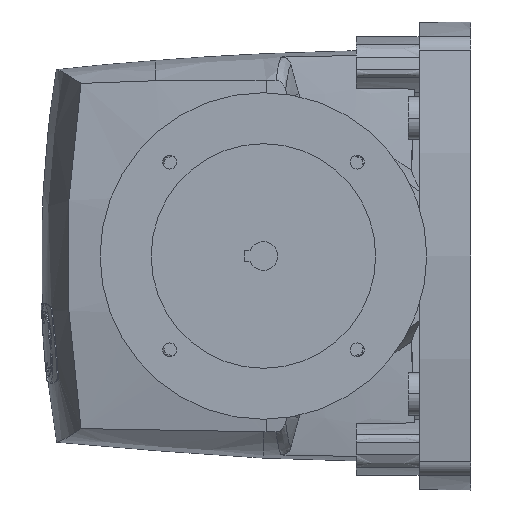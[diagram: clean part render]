
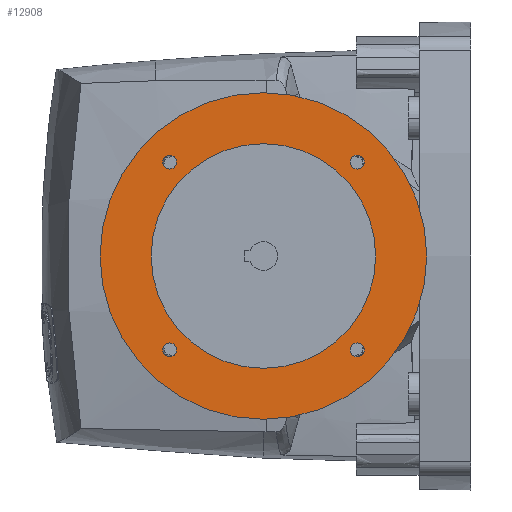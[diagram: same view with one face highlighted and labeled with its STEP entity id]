
A CAD part, left-side view. The second image highlights one B-rep face of the part: STEP entity #12908.
In plain terms, the highlighted planar face has unit normal (-1, 0, 0).
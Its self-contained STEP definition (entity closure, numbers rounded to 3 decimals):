
#4046=CARTESIAN_POINT('',(-137.5,147.462,45.962));
#4047=DIRECTION('',(1.,0.,0.));
#4048=DIRECTION('',(0.,-1.,0.));
#4049=AXIS2_PLACEMENT_3D('',#4046,#4047,#4048);
#4051=CARTESIAN_POINT('',(-137.5,147.462,45.962));
#4052=DIRECTION('',(1.,0.,0.));
#4053=DIRECTION('',(0.,1.,0.));
#4054=AXIS2_PLACEMENT_3D('',#4051,#4052,#4053);
#4056=CARTESIAN_POINT('',(-137.5,55.538,45.962));
#4057=DIRECTION('',(1.,0.,0.));
#4058=DIRECTION('',(0.,-1.,0.));
#4059=AXIS2_PLACEMENT_3D('',#4056,#4057,#4058);
#4061=CARTESIAN_POINT('',(-137.5,55.538,45.962));
#4062=DIRECTION('',(1.,0.,0.));
#4063=DIRECTION('',(0.,1.,0.));
#4064=AXIS2_PLACEMENT_3D('',#4061,#4062,#4063);
#4066=CARTESIAN_POINT('',(-137.5,147.462,-45.962));
#4067=DIRECTION('',(1.,0.,0.));
#4068=DIRECTION('',(0.,-1.,0.));
#4069=AXIS2_PLACEMENT_3D('',#4066,#4067,#4068);
#4071=CARTESIAN_POINT('',(-137.5,147.462,-45.962));
#4072=DIRECTION('',(1.,0.,0.));
#4073=DIRECTION('',(0.,1.,0.));
#4074=AXIS2_PLACEMENT_3D('',#4071,#4072,#4073);
#4076=CARTESIAN_POINT('',(-137.5,55.538,-45.962));
#4077=DIRECTION('',(1.,0.,0.));
#4078=DIRECTION('',(0.,-1.,0.));
#4079=AXIS2_PLACEMENT_3D('',#4076,#4077,#4078);
#4081=CARTESIAN_POINT('',(-137.5,55.538,-45.962));
#4082=DIRECTION('',(1.,0.,0.));
#4083=DIRECTION('',(0.,1.,0.));
#4084=AXIS2_PLACEMENT_3D('',#4081,#4082,#4083);
#4086=CARTESIAN_POINT('',(-137.5,101.5,0.));
#4087=DIRECTION('',(1.,0.,0.));
#4088=DIRECTION('',(0.,0.,-1.));
#4089=AXIS2_PLACEMENT_3D('',#4086,#4087,#4088);
#4091=CARTESIAN_POINT('',(-137.5,101.5,0.));
#4092=DIRECTION('',(1.,0.,0.));
#4093=DIRECTION('',(0.,0.,1.));
#4094=AXIS2_PLACEMENT_3D('',#4091,#4092,#4093);
#4096=CARTESIAN_POINT('',(-137.5,101.5,0.));
#4097=DIRECTION('',(-1.,0.,0.));
#4098=DIRECTION('',(0.,0.,1.));
#4099=AXIS2_PLACEMENT_3D('',#4096,#4097,#4098);
#4101=CARTESIAN_POINT('',(-137.5,101.5,0.));
#4102=DIRECTION('',(-1.,0.,0.));
#4103=DIRECTION('',(0.,0.,-1.));
#4104=AXIS2_PLACEMENT_3D('',#4101,#4102,#4103);
#7137=CARTESIAN_POINT('',(-137.5,101.5,-79.989));
#7138=CARTESIAN_POINT('',(-137.5,101.5,79.989));
#7139=VERTEX_POINT('',#7137);
#7140=VERTEX_POINT('',#7138);
#7141=CARTESIAN_POINT('',(-137.5,101.5,54.99));
#7142=CARTESIAN_POINT('',(-137.5,101.5,-54.99));
#7143=VERTEX_POINT('',#7141);
#7144=VERTEX_POINT('',#7142);
#7375=CARTESIAN_POINT('',(-137.5,144.062,45.962));
#7376=CARTESIAN_POINT('',(-137.5,150.862,45.962));
#7377=VERTEX_POINT('',#7375);
#7378=VERTEX_POINT('',#7376);
#7379=CARTESIAN_POINT('',(-137.5,52.138,45.962));
#7380=CARTESIAN_POINT('',(-137.5,58.938,45.962));
#7381=VERTEX_POINT('',#7379);
#7382=VERTEX_POINT('',#7380);
#7383=CARTESIAN_POINT('',(-137.5,52.138,-45.962));
#7384=CARTESIAN_POINT('',(-137.5,58.938,-45.962));
#7385=VERTEX_POINT('',#7383);
#7386=VERTEX_POINT('',#7384);
#7387=CARTESIAN_POINT('',(-137.5,144.062,-45.962));
#7388=CARTESIAN_POINT('',(-137.5,150.862,-45.962));
#7389=VERTEX_POINT('',#7387);
#7390=VERTEX_POINT('',#7388);
#12868=CARTESIAN_POINT('',(-137.5,101.5,0.));
#12869=DIRECTION('',(1.,0.,0.));
#12870=DIRECTION('',(0.,0.,1.));
#12871=AXIS2_PLACEMENT_3D('',#12868,#12869,#12870);
#12872=PLANE('',#12871);
#12873=ORIENTED_EDGE('',*,*,#12858,.T.);
#12875=ORIENTED_EDGE('',*,*,#12874,.T.);
#12876=EDGE_LOOP('',(#12873,#12875));
#12877=FACE_OUTER_BOUND('',#12876,.F.);
#12879=ORIENTED_EDGE('',*,*,#12878,.F.);
#12881=ORIENTED_EDGE('',*,*,#12880,.F.);
#12882=EDGE_LOOP('',(#12879,#12881));
#12883=FACE_BOUND('',#12882,.F.);
#12885=ORIENTED_EDGE('',*,*,#12884,.F.);
#12887=ORIENTED_EDGE('',*,*,#12886,.F.);
#12888=EDGE_LOOP('',(#12885,#12887));
#12889=FACE_BOUND('',#12888,.F.);
#12891=ORIENTED_EDGE('',*,*,#12890,.F.);
#12893=ORIENTED_EDGE('',*,*,#12892,.F.);
#12894=EDGE_LOOP('',(#12891,#12893));
#12895=FACE_BOUND('',#12894,.F.);
#12897=ORIENTED_EDGE('',*,*,#12896,.F.);
#12899=ORIENTED_EDGE('',*,*,#12898,.F.);
#12900=EDGE_LOOP('',(#12897,#12899));
#12901=FACE_BOUND('',#12900,.F.);
#12903=ORIENTED_EDGE('',*,*,#12902,.T.);
#12905=ORIENTED_EDGE('',*,*,#12904,.T.);
#12906=EDGE_LOOP('',(#12903,#12905));
#12907=FACE_BOUND('',#12906,.F.);
#12908=ADVANCED_FACE('',(#12877,#12883,#12889,#12895,#12901,#12907),#12872,.F.);
#4050=CIRCLE('',#4049,3.4);
#4055=CIRCLE('',#4054,3.4);
#4060=CIRCLE('',#4059,3.4);
#4065=CIRCLE('',#4064,3.4);
#4070=CIRCLE('',#4069,3.4);
#4075=CIRCLE('',#4074,3.4);
#4080=CIRCLE('',#4079,3.4);
#4085=CIRCLE('',#4084,3.4);
#4090=CIRCLE('',#4089,79.989);
#4095=CIRCLE('',#4094,79.989);
#4100=CIRCLE('',#4099,54.99);
#4105=CIRCLE('',#4104,54.99);
#12858=EDGE_CURVE('',#7139,#7140,#4090,.T.);
#12874=EDGE_CURVE('',#7140,#7139,#4095,.T.);
#12878=EDGE_CURVE('',#7377,#7378,#4050,.T.);
#12880=EDGE_CURVE('',#7378,#7377,#4055,.T.);
#12884=EDGE_CURVE('',#7381,#7382,#4060,.T.);
#12886=EDGE_CURVE('',#7382,#7381,#4065,.T.);
#12890=EDGE_CURVE('',#7389,#7390,#4070,.T.);
#12892=EDGE_CURVE('',#7390,#7389,#4075,.T.);
#12896=EDGE_CURVE('',#7385,#7386,#4080,.T.);
#12898=EDGE_CURVE('',#7386,#7385,#4085,.T.);
#12902=EDGE_CURVE('',#7143,#7144,#4100,.T.);
#12904=EDGE_CURVE('',#7144,#7143,#4105,.T.);
